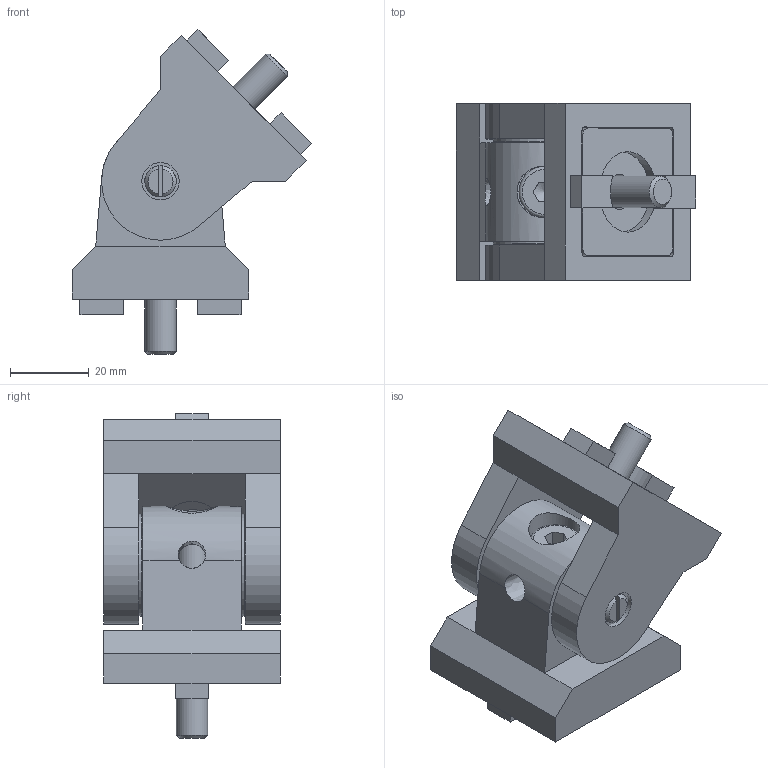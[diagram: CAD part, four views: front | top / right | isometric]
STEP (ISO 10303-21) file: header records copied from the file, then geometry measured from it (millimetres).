
FILE_DESCRIPTION((''),'2;1');
FILE_NAME('C:\Documents and Settings\Administrator\My Documents\Andys Backup Data\ANDY''S INVENTOR\INVENTOR LIBRARIES\MINITEC INVENTOR LIBRARIES\LINKS AND HINGES\A PACKED FILES\STEP FILES\21.2020 ANGLE BRACKET.stp','2010-06-24T15:06:35',('Administrator'),(''),'Autodesk Inventor 2009','Autodesk Inventor 2009','');
FILE_SCHEMA(('AUTOMOTIVE_DESIGN { 1 0 10303 214 1 1 1 1 }'));
Length unit declared in the file: millimetre
Products named in the file (8): 21.2020 ANGLE BRACKET; 21.2030 LINK FLANGED BUSHING; 21.2030 LINK AL BLOCK OUTER; 21.2030 LINK ALUMINUM BLOCK INNER; ANTI-ROTATION DEVICE; 21.1212 M8 x 50; 21.1202  M8 x 20; 21.2020 ANGLE BRACKET SET SCREW
Assembly tree (10 placements, depth 2):
  21.2020 ANGLE BRACKET
    21.2030 LINK FLANGED BUSHING  x2
    21.2030 LINK AL BLOCK OUTER
    21.2030 LINK ALUMINUM BLOCK INNER
    ANTI-ROTATION DEVICE  x2
    21.1212 M8 x 50
    21.1202  M8 x 20
    21.2020 ANGLE BRACKET SET SCREW  x2
Bounding box: 61.04 x 45 x 82.54 mm (x, y, z)
Volume: 86759.5 mm3; surface area: 34205.5 mm2
Topology: 10 solids, 10 shells, 173 faces, 429 edges, 278 vertices
Faces by surface type: plane 115, cylinder 44, cone 10, bspline 2, torus 2
Full cylindrical faces by diameter (mm): 8 x6, 9 x4, 9.5 x4, 10 x2, 13 x5, 20.5 x2, 26 x2
Entity records: 4550 total; most frequent: CARTESIAN_POINT 1141, DIRECTION 650, ORIENTED_EDGE 596, EDGE_CURVE 298, AXIS2_PLACEMENT_3D 233, VERTEX_POINT 208, EDGE_LOOP 186, VECTOR 184
